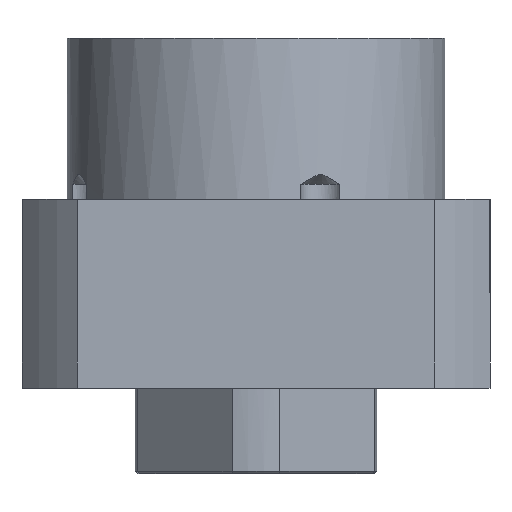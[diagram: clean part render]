
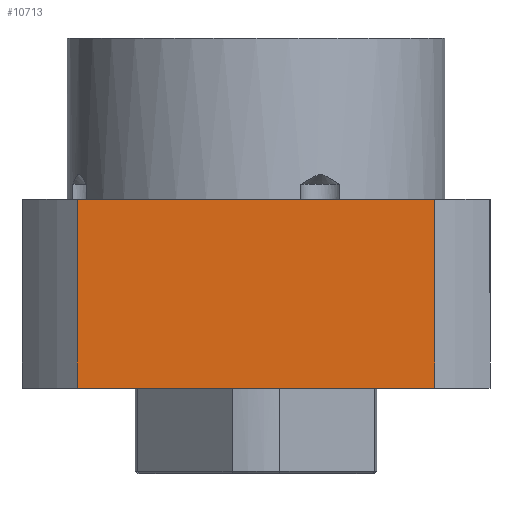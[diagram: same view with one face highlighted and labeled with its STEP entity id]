
A CAD part, front view. The second image highlights one B-rep face of the part: STEP entity #10713.
In plain terms, the highlighted planar face has unit normal (0, -1, 0).
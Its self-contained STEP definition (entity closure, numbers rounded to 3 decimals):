
#510 = LINE ( 'NONE', #5246, #1470 ) ;
#1135 = EDGE_LOOP ( 'NONE', ( #7764, #7886, #4377, #11152 ) ) ;
#1470 = VECTOR ( 'NONE', #2686, 1000. ) ;
#1569 = LINE ( 'NONE', #5193, #3776 ) ;
#2648 = DIRECTION ( 'NONE',  ( 0., 0., -1. ) ) ;
#2686 = DIRECTION ( 'NONE',  ( -1., 0., 0. ) ) ;
#3028 = FACE_OUTER_BOUND ( 'NONE', #1135, .T. ) ;
#3482 = VECTOR ( 'NONE', #6503, 1000. ) ;
#3776 = VECTOR ( 'NONE', #2648, 1000. ) ;
#3863 = EDGE_CURVE ( 'NONE', #5591, #7492, #1569, .T. ) ;
#4052 = DIRECTION ( 'NONE',  ( -1., 0., 0. ) ) ;
#4377 = ORIENTED_EDGE ( 'NONE', *, *, #6697, .F. ) ;
#4585 = CARTESIAN_POINT ( 'NONE',  ( -78.31, -46.5, 47. ) ) ;
#4615 = EDGE_CURVE ( 'NONE', #5381, #10140, #5365, .T. ) ;
#4705 = DIRECTION ( 'NONE',  ( 0., 1., 0. ) ) ;
#4771 = CARTESIAN_POINT ( 'NONE',  ( -35.496, -46.5, 15. ) ) ;
#4921 = CARTESIAN_POINT ( 'NONE',  ( 35.496, -46.5, -22.5 ) ) ;
#5193 = CARTESIAN_POINT ( 'NONE',  ( 35.496, -46.5, 15. ) ) ;
#5246 = CARTESIAN_POINT ( 'NONE',  ( 0., -46.5, 15. ) ) ;
#5365 = LINE ( 'NONE', #4771, #3482 ) ;
#5381 = VERTEX_POINT ( 'NONE', #8442 ) ;
#5591 = VERTEX_POINT ( 'NONE', #6341 ) ;
#6341 = CARTESIAN_POINT ( 'NONE',  ( 35.496, -46.5, 15. ) ) ;
#6503 = DIRECTION ( 'NONE',  ( 0., 0., 1. ) ) ;
#6580 = CARTESIAN_POINT ( 'NONE',  ( 0., -46.5, -22.5 ) ) ;
#6697 = EDGE_CURVE ( 'NONE', #7492, #5381, #9052, .T. ) ;
#7492 = VERTEX_POINT ( 'NONE', #4921 ) ;
#7764 = ORIENTED_EDGE ( 'NONE', *, *, #8058, .T. ) ;
#7886 = ORIENTED_EDGE ( 'NONE', *, *, #4615, .F. ) ;
#7940 = PLANE ( 'NONE',  #8503 ) ;
#8013 = DIRECTION ( 'NONE',  ( -1., 0., 0. ) ) ;
#8058 = EDGE_CURVE ( 'NONE', #5591, #10140, #510, .T. ) ;
#8442 = CARTESIAN_POINT ( 'NONE',  ( -35.496, -46.5, -22.5 ) ) ;
#8503 = AXIS2_PLACEMENT_3D ( 'NONE', #4585, #4705, #8013 ) ;
#8637 = VECTOR ( 'NONE', #4052, 1000. ) ;
#8884 = CARTESIAN_POINT ( 'NONE',  ( -35.496, -46.5, 15. ) ) ;
#9052 = LINE ( 'NONE', #6580, #8637 ) ;
#10140 = VERTEX_POINT ( 'NONE', #8884 ) ;
#10713 = ADVANCED_FACE ( 'NONE', ( #3028 ), #7940, .F. ) ;
#11152 = ORIENTED_EDGE ( 'NONE', *, *, #3863, .F. ) ;
